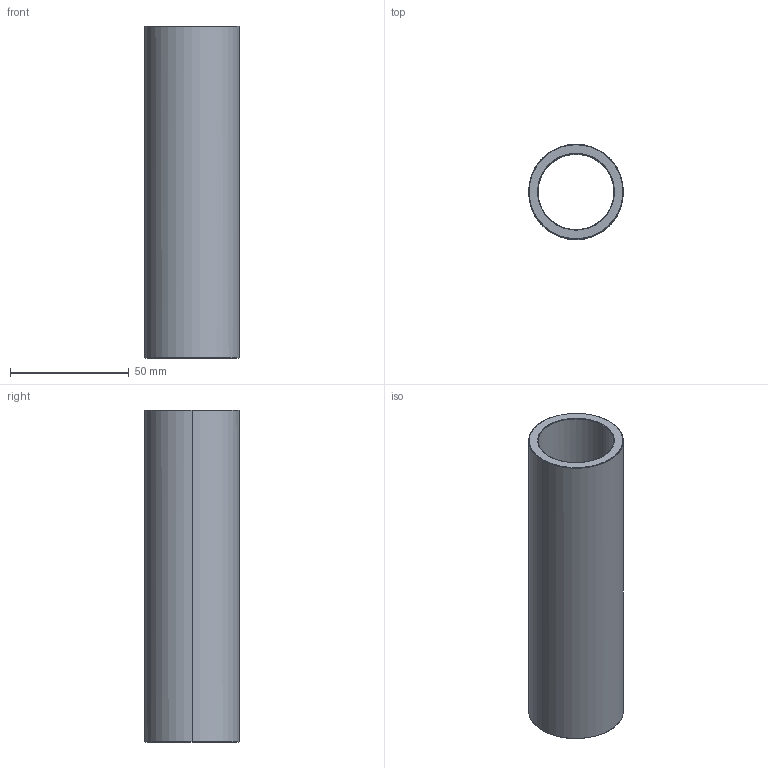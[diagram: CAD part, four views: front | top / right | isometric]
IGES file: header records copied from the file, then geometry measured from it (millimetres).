
Start section: Write IGES format                                    datakit 2008 (c)
Global section: file name: Unknown; native system: DATAKIT Converter; preprocessor: Unknown; author: Unknown; organization: Unknown; date: 950613.180003; units: millimetre
Bounding box: 40 x 40 x 140 mm (x, y, z)
Surface area: 32519 mm2 (no closed solid volume)
Topology: 0 solids, 0 shells, 14 faces, 56 edges, 56 vertices
Faces by surface type: revolution 12, bspline 2
